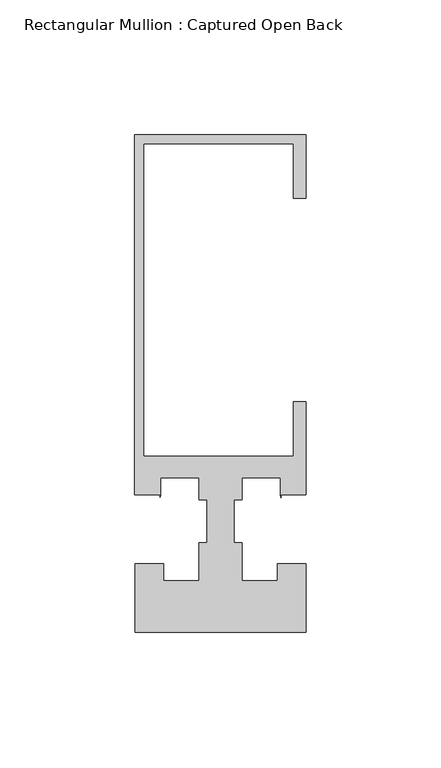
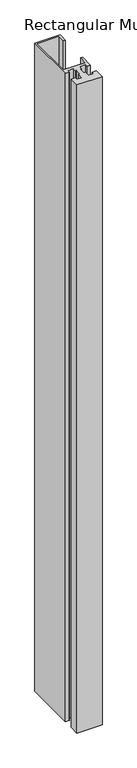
"""IFC4 building model written with IfcOpenShell, lengths in millimetres: member geometry, Rectangular Mullion : Captured Open Back."""

from ifc_helpers import new_model, si_unit, frame, origin, place, context, project, spatial, polyline, outline, extrude, source, transform, mapped, element, save


def rectangular_mullion_captured_open_back_1440805d(model_context):
    return source(origin(), model_context, "Body", "SweptSolid", [
        extrude(outline(polyline([(0.0, 114.3), (0.0, 90.8721193), (-4.7830665, 90.8721193), (-4.7830665, 111.1250145), (-60.3449493, 111.1250145), (-60.3449493, -4.7625735), (-4.7830665, -4.7625735), (-4.7830665, 15.5833982), (0.0, 15.5833982), (0.0, -18.933673), (-9.3791839, -18.933673), (-9.3791839, -20.0839351), (-9.5454538, -18.933673), (-9.5454538, -12.7), (-23.7289004, -12.7), (-23.7289004, -20.8793999), (-26.7817813, -20.8793999), (-26.7817813, -36.6491027), (-23.833119, -36.6491027), (-23.833119, -50.8001709), (-10.6860183, -50.8001709), (-10.6860183, -44.4245655), (0.0, -44.4245655), (0.0, -69.8502416), (-63.5, -69.8502416), (-63.5, -44.4247364), (-52.7976545, -44.4247364), (-52.7976545, -50.8001709), (-39.7081202, -50.8001709), (-39.7081202, -36.6491027), (-36.7345137, -36.6491027), (-36.7345137, -20.8793999), (-39.7081204, -20.8793999), (-39.7081204, -12.7), (-53.9955753, -12.7), (-53.9955753, -18.948961), (-54.1818814, -19.8905485), (-54.1818814, -18.9488461), (-63.5205663, -18.9488461), (-63.5205663, 114.3), (0.0, 114.3)])), frame((0.0, 0.0, -1733.5294337), z_axis=(0.0, 0.0, 1.0), x_axis=(1.0, 0.0, 0.0)), (0.0, 0.0, 1.0), 1733.5294337),
    ])


if __name__ == "__main__":
    model = new_model("IFC4")
    model_context = context("Model", 3, world=origin())
    ifc_project = project(units=[si_unit("LENGTHUNIT", "METRE", prefix="MILLI")], contexts=[model_context])
    site = spatial("IfcSite", under=ifc_project)
    building = spatial("IfcBuilding", under=site)
    placement = place(None, origin())
    rectangular_mullion_captured_open_back_shape = rectangular_mullion_captured_open_back_1440805d(model_context)
    element("IfcMember", 1, ObjectType="Rectangular Mullion : Captured Open Back", at=placement, inside=building, context=model_context, shape_type="MappedRepresentation", body=[
        mapped(rectangular_mullion_captured_open_back_shape, transform((0.0, 0.0, 0.0), x_axis=(1.0, 0.0, 0.0), y_axis=(0.0, 1.0, 0.0), z_axis=(0.0, 0.0, 1.0))),
    ])
    save(model, "model.ifc")
